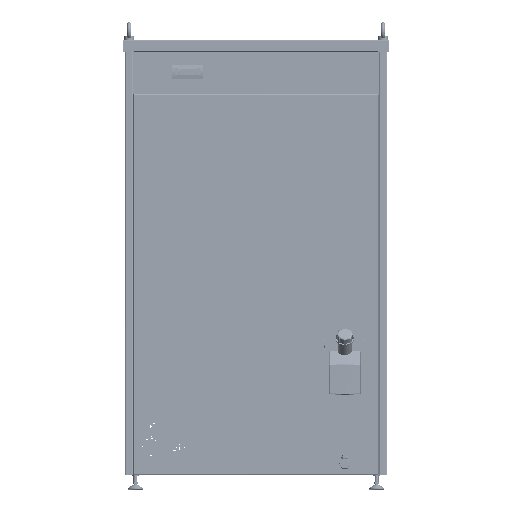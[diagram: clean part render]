
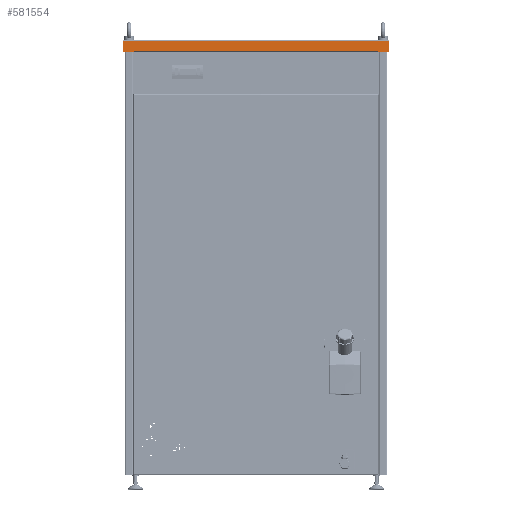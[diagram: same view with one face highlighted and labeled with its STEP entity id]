
A CAD part, top view. The second image highlights one B-rep face of the part: STEP entity #581554.
In plain terms, the highlighted planar face has unit normal (0, 0, 1) as drawn and (0, 1, 0) by its records, which use the part's own axes.
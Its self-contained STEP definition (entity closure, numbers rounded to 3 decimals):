
#9188 = EDGE_CURVE ( 'NONE', #336217, #33676, #123840, .T. ) ;
#12624 = VERTEX_POINT ( 'NONE', #201049 ) ;
#15221 = VERTEX_POINT ( 'NONE', #325492 ) ;
#16878 = LINE ( 'NONE', #66124, #522179 ) ;
#19593 = ORIENTED_EDGE ( 'NONE', *, *, #306295, .F. ) ;
#22057 = LINE ( 'NONE', #281055, #431018 ) ;
#33676 = VERTEX_POINT ( 'NONE', #365189 ) ;
#36899 = CARTESIAN_POINT ( 'NONE',  ( 335.5, 330.5, 27. ) ) ;
#42860 = EDGE_LOOP ( 'NONE', ( #150254, #54126, #621478, #249331, #458141, #19593, #117685, #271815, #404942, #647375, #197387, #241387 ) ) ;
#43436 = EDGE_CURVE ( 'NONE', #602192, #436974, #594286, .T. ) ;
#46700 = EDGE_CURVE ( 'NONE', #393330, #15221, #16878, .T. ) ;
#49380 = CARTESIAN_POINT ( 'NONE',  ( -335.5, 330.5, 2.4 ) ) ;
#50741 = CARTESIAN_POINT ( 'NONE',  ( 335.5, 330.5, 30. ) ) ;
#53763 = EDGE_CURVE ( 'NONE', #12624, #393330, #592058, .T. ) ;
#53997 = FACE_OUTER_BOUND ( 'NONE', #42860, .T. ) ;
#54126 = ORIENTED_EDGE ( 'NONE', *, *, #63482, .F. ) ;
#63482 = EDGE_CURVE ( 'NONE', #132163, #392807, #636697, .T. ) ;
#66124 = CARTESIAN_POINT ( 'NONE',  ( 335.5, 330.5, 30. ) ) ;
#79945 = CARTESIAN_POINT ( 'NONE',  ( 335.5, 330.5, 30. ) ) ;
#117685 = ORIENTED_EDGE ( 'NONE', *, *, #557614, .F. ) ;
#123840 = LINE ( 'NONE', #471318, #138534 ) ;
#132163 = VERTEX_POINT ( 'NONE', #476490 ) ;
#133337 = VECTOR ( 'NONE', #237516, 1000. ) ;
#138534 = VECTOR ( 'NONE', #268321, 1000. ) ;
#142888 = VERTEX_POINT ( 'NONE', #474751 ) ;
#142979 = CARTESIAN_POINT ( 'NONE',  ( 335.5, 330.5, 2.4 ) ) ;
#144887 = VECTOR ( 'NONE', #642879, 1000. ) ;
#150254 = ORIENTED_EDGE ( 'NONE', *, *, #296266, .F. ) ;
#166439 = CARTESIAN_POINT ( 'NONE',  ( 335.5, 330.5, 2.4 ) ) ;
#176327 = VERTEX_POINT ( 'NONE', #412571 ) ;
#185340 = CARTESIAN_POINT ( 'NONE',  ( -308.1, 330.5, 27. ) ) ;
#190590 = LINE ( 'NONE', #541217, #144887 ) ;
#197387 = ORIENTED_EDGE ( 'NONE', *, *, #9188, .T. ) ;
#201049 = CARTESIAN_POINT ( 'NONE',  ( 335.5, 330.5, 2.4 ) ) ;
#201156 = VECTOR ( 'NONE', #359168, 1000. ) ;
#222089 = DIRECTION ( 'NONE',  ( 0., 0., -1. ) ) ;
#237516 = DIRECTION ( 'NONE',  ( 1., 0., 0. ) ) ;
#241387 = ORIENTED_EDGE ( 'NONE', *, *, #568848, .F. ) ;
#249331 = ORIENTED_EDGE ( 'NONE', *, *, #586513, .T. ) ;
#268321 = DIRECTION ( 'NONE',  ( 0., 0., 1. ) ) ;
#271815 = ORIENTED_EDGE ( 'NONE', *, *, #46700, .F. ) ;
#274620 = CARTESIAN_POINT ( 'NONE',  ( 307.5, 330.5, 27. ) ) ;
#275869 = VECTOR ( 'NONE', #577420, 1000. ) ;
#281055 = CARTESIAN_POINT ( 'NONE',  ( 308.1, 330.5, 30. ) ) ;
#286163 = DIRECTION ( 'NONE',  ( -1., 0., 0. ) ) ;
#296266 = EDGE_CURVE ( 'NONE', #392807, #498160, #503345, .T. ) ;
#296728 = DIRECTION ( 'NONE',  ( 0., 0., -1. ) ) ;
#301286 = DIRECTION ( 'NONE',  ( 0., 0., -1. ) ) ;
#306295 = EDGE_CURVE ( 'NONE', #176327, #602192, #325199, .T. ) ;
#323789 = DIRECTION ( 'NONE',  ( 1., 0., 0. ) ) ;
#325199 = LINE ( 'NONE', #479093, #275869 ) ;
#325492 = CARTESIAN_POINT ( 'NONE',  ( 308.1, 330.5, 30. ) ) ;
#329497 = LINE ( 'NONE', #581709, #133337 ) ;
#336217 = VERTEX_POINT ( 'NONE', #49380 ) ;
#337237 = VECTOR ( 'NONE', #323789, 1000. ) ;
#347245 = CARTESIAN_POINT ( 'NONE',  ( -307.5, 330.5, 30. ) ) ;
#349145 = PLANE ( 'NONE',  #432902 ) ;
#359168 = DIRECTION ( 'NONE',  ( 0., 0., 1. ) ) ;
#365189 = CARTESIAN_POINT ( 'NONE',  ( -335.5, 330.5, 30. ) ) ;
#384432 = VECTOR ( 'NONE', #395413, 1000. ) ;
#392807 = VERTEX_POINT ( 'NONE', #185340 ) ;
#393330 = VERTEX_POINT ( 'NONE', #79945 ) ;
#395413 = DIRECTION ( 'NONE',  ( 0., 0., 1. ) ) ;
#401806 = CARTESIAN_POINT ( 'NONE',  ( -308.1, 330.5, 30. ) ) ;
#404942 = ORIENTED_EDGE ( 'NONE', *, *, #53763, .F. ) ;
#412571 = CARTESIAN_POINT ( 'NONE',  ( 308.1, 330.5, 27. ) ) ;
#431018 = VECTOR ( 'NONE', #222089, 1000. ) ;
#432902 = AXIS2_PLACEMENT_3D ( 'NONE', #50741, #460315, #296728 ) ;
#436974 = VERTEX_POINT ( 'NONE', #619999 ) ;
#450025 = CARTESIAN_POINT ( 'NONE',  ( 307.5, 330.5, 30. ) ) ;
#458141 = ORIENTED_EDGE ( 'NONE', *, *, #43436, .F. ) ;
#460315 = DIRECTION ( 'NONE',  ( 0., -1., 0. ) ) ;
#471318 = CARTESIAN_POINT ( 'NONE',  ( -335.5, 330.5, 2.4 ) ) ;
#474751 = CARTESIAN_POINT ( 'NONE',  ( -307.5, 330.5, 27.6 ) ) ;
#476490 = CARTESIAN_POINT ( 'NONE',  ( -307.5, 330.5, 27. ) ) ;
#479093 = CARTESIAN_POINT ( 'NONE',  ( 335.5, 330.5, 27. ) ) ;
#486470 = VECTOR ( 'NONE', #286163, 1000. ) ;
#497888 = LINE ( 'NONE', #347245, #512737 ) ;
#498160 = VERTEX_POINT ( 'NONE', #592985 ) ;
#503345 = LINE ( 'NONE', #401806, #201156 ) ;
#512737 = VECTOR ( 'NONE', #301286, 1000. ) ;
#522179 = VECTOR ( 'NONE', #573973, 1000. ) ;
#531620 = VECTOR ( 'NONE', #600801, 1000. ) ;
#539984 = EDGE_CURVE ( 'NONE', #336217, #12624, #566301, .T. ) ;
#540744 = EDGE_CURVE ( 'NONE', #142888, #132163, #497888, .T. ) ;
#541217 = CARTESIAN_POINT ( 'NONE',  ( 335.5, 330.5, 30. ) ) ;
#557614 = EDGE_CURVE ( 'NONE', #15221, #176327, #22057, .T. ) ;
#566301 = LINE ( 'NONE', #166439, #337237 ) ;
#568848 = EDGE_CURVE ( 'NONE', #498160, #33676, #190590, .T. ) ;
#573973 = DIRECTION ( 'NONE',  ( -1., 0., 0. ) ) ;
#577420 = DIRECTION ( 'NONE',  ( -1., 0., 0. ) ) ;
#581554 = ADVANCED_FACE ( 'NONE', ( #53997 ), #349145, .F. ) ;
#581709 = CARTESIAN_POINT ( 'NONE',  ( -307.5, 330.5, 27.6 ) ) ;
#586513 = EDGE_CURVE ( 'NONE', #142888, #436974, #329497, .T. ) ;
#592058 = LINE ( 'NONE', #142979, #384432 ) ;
#592985 = CARTESIAN_POINT ( 'NONE',  ( -308.1, 330.5, 30. ) ) ;
#594286 = LINE ( 'NONE', #450025, #531620 ) ;
#600801 = DIRECTION ( 'NONE',  ( 0., 0., 1. ) ) ;
#602192 = VERTEX_POINT ( 'NONE', #274620 ) ;
#619999 = CARTESIAN_POINT ( 'NONE',  ( 307.5, 330.5, 27.6 ) ) ;
#621478 = ORIENTED_EDGE ( 'NONE', *, *, #540744, .F. ) ;
#636697 = LINE ( 'NONE', #36899, #486470 ) ;
#642879 = DIRECTION ( 'NONE',  ( -1., 0., 0. ) ) ;
#647375 = ORIENTED_EDGE ( 'NONE', *, *, #539984, .F. ) ;
